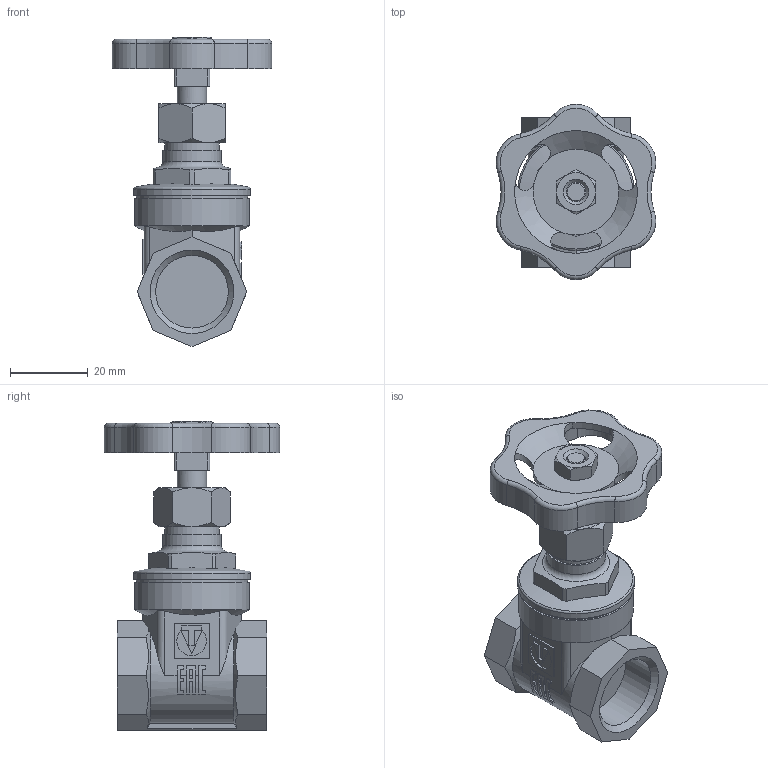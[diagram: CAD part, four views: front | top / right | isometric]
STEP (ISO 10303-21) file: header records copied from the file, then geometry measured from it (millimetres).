
FILE_DESCRIPTION(('STEP AP203'), '1');
FILE_NAME('VT.012.G.04', '', ('UNSPECIFIED'), ('UNSPECIFIED'), 'C3D Converter', 'C3D Toolkit', '');
FILE_SCHEMA(('CONFIG_CONTROL_DESIGN'));
Length unit declared in the file: millimetre
Products named in the file (1): ВР.491212.004.000 СБ
Bounding box: 41.01 x 45.01 x 79.37 mm (x, y, z)
Volume: 33922.4 mm3; surface area: 14233.1 mm2
Topology: 1 solids, 5 shells, 488 faces, 1279 edges, 817 vertices
Faces by surface type: plane 209, cylinder 111, extrusion 102, cone 40, torus 26
Full cylindrical faces by diameter (mm): 7.5 x1, 8 x1, 14 x1, 15 x1, 18.632 x2, 28.5 x1, 28.6 x1, 29.5 x1, 30 x1
Entity records: 18984 total; most frequent: CARTESIAN_POINT 7498, ORIENTED_EDGE 2508, DIRECTION 2072, EDGE_CURVE 1254, VERTEX_POINT 815, VECTOR 718, AXIS2_PLACEMENT_3D 677, LINE 616
